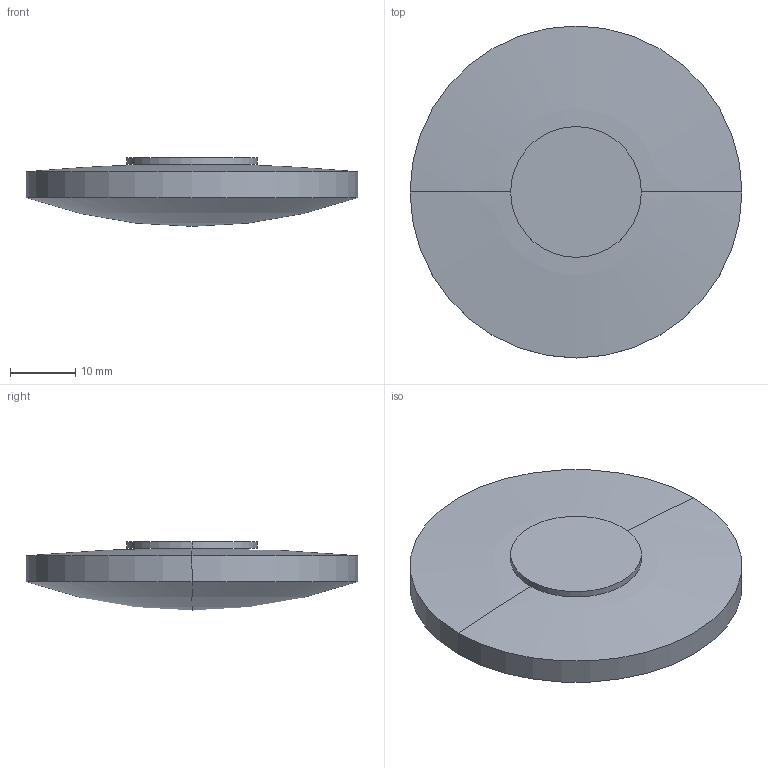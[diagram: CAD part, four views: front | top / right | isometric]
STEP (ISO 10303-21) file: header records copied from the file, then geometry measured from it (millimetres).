
FILE_DESCRIPTION(('STEP AP214'),'1');
FILE_NAME('LLF-51150.STEP','2020-03-09T17:41:29',(' '),(' '),'Spatial InterOp 3D',' ',' ');
FILE_SCHEMA(('AUTOMOTIVE_DESIGN { 1 0 10303 214 1 1 1 1 }'));
Length unit declared in the file: millimetre
Products named in the file (1): 1
Bounding box: 50.8 x 50.8 x 10.5 mm (x, y, z)
Volume: 14009.1 mm3; surface area: 5442.9 mm2
Topology: 2 solids, 2 shells, 10 faces, 20 edges, 10 vertices
Faces by surface type: sphere 4, cylinder 4, plane 2
Entity records: 255 total; most frequent: DIRECTION 52, CARTESIAN_POINT 38, ORIENTED_EDGE 32, AXIS2_PLACEMENT_3D 24, EDGE_CURVE 16, CIRCLE 12, ADVANCED_FACE 10, FACE_OUTER_BOUND 10
